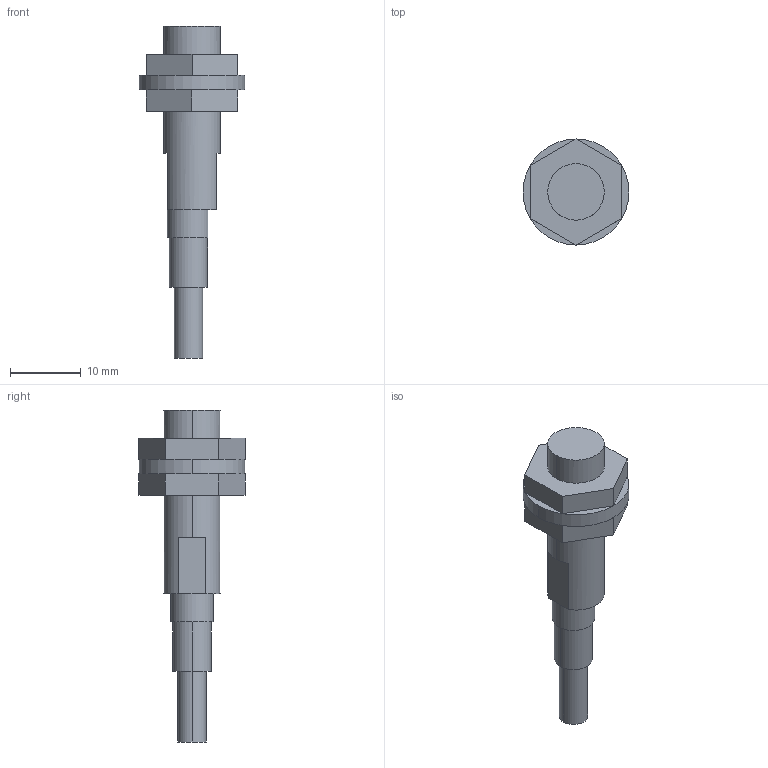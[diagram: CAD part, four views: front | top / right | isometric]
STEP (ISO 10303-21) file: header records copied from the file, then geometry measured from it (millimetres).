
FILE_DESCRIPTION (( 'STEP AP203' ), '1' );
FILE_NAME ('E2E_X1R5E1.step', '2013-07-18T11:42:49', ( 'OSMC1.0 TAKUMI' ), ( 'TAKUMI-Engniaring' ), 'SwSTEP 2.0', 'SolidWorks 2002025', '' );
FILE_SCHEMA (( 'CONFIG_CONTROL_DESIGN' ));
Length unit declared in the file: millimetre
Products named in the file (4): E2E_X1R5E1; E2E_X1R5E1_NUTS; E2E_X1R5E1_BASE; E2E_X1R5E1_NUT
Assembly tree (3 placements, depth 2):
  E2E_X1R5E1
    E2E_X1R5E1_NUTS
    E2E_X1R5E1_NUT
    E2E_X1R5E1_BASE
Bounding box: 15 x 15.01 x 47 mm (x, y, z)
Volume: 2518.7 mm3; surface area: 2097 mm2
Topology: 3 solids, 3 shells, 57 faces, 128 edges, 81 vertices
Faces by surface type: plane 40, cylinder 17
Entity records: 2011 total; most frequent: DIRECTION 305, CARTESIAN_POINT 272, ORIENTED_EDGE 256, EDGE_CURVE 128, AXIS2_PLACEMENT_3D 114, VERTEX_POINT 81, VECTOR 77, LINE 77
